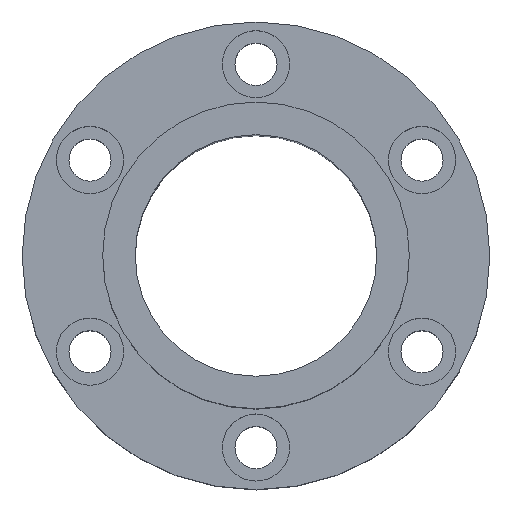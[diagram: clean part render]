
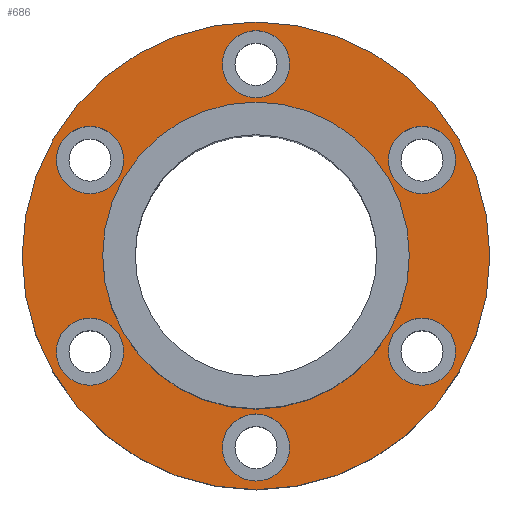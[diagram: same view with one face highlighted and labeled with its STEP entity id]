
A CAD part, top view. The second image highlights one B-rep face of the part: STEP entity #686.
In plain terms, the highlighted planar face has unit normal (0, 0, 1).
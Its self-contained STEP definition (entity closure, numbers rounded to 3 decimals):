
#1=CARTESIAN_POINT('',(0.,0.,22.));
#2=DIRECTION('',(0.,0.,1.));
#3=DIRECTION('',(1.,0.,0.));
#4=AXIS2_PLACEMENT_3D('',#1,#2,#3);
#6=CARTESIAN_POINT('',(0.,0.,22.));
#7=DIRECTION('',(0.,0.,1.));
#8=DIRECTION('',(-1.,0.,0.));
#9=AXIS2_PLACEMENT_3D('',#6,#7,#8);
#11=CARTESIAN_POINT('',(43.301,-25.,22.));
#12=DIRECTION('',(0.,0.,-1.));
#13=DIRECTION('',(-0.5,-0.866,0.));
#14=AXIS2_PLACEMENT_3D('',#11,#12,#13);
#16=CARTESIAN_POINT('',(43.301,-25.,22.));
#17=DIRECTION('',(0.,0.,-1.));
#18=DIRECTION('',(0.5,0.866,0.));
#19=AXIS2_PLACEMENT_3D('',#16,#17,#18);
#21=CARTESIAN_POINT('',(-43.301,-25.,22.));
#22=DIRECTION('',(0.,0.,-1.));
#23=DIRECTION('',(-0.5,0.866,0.));
#24=AXIS2_PLACEMENT_3D('',#21,#22,#23);
#26=CARTESIAN_POINT('',(-43.301,-25.,22.));
#27=DIRECTION('',(0.,0.,-1.));
#28=DIRECTION('',(0.5,-0.866,0.));
#29=AXIS2_PLACEMENT_3D('',#26,#27,#28);
#31=CARTESIAN_POINT('',(0.,50.,22.));
#32=DIRECTION('',(0.,0.,-1.));
#33=DIRECTION('',(1.,0.,0.));
#34=AXIS2_PLACEMENT_3D('',#31,#32,#33);
#36=CARTESIAN_POINT('',(0.,50.,22.));
#37=DIRECTION('',(0.,0.,-1.));
#38=DIRECTION('',(-1.,0.,0.));
#39=AXIS2_PLACEMENT_3D('',#36,#37,#38);
#41=CARTESIAN_POINT('',(0.,0.,22.));
#42=DIRECTION('',(0.,0.,-1.));
#43=DIRECTION('',(1.,0.,0.));
#44=AXIS2_PLACEMENT_3D('',#41,#42,#43);
#46=CARTESIAN_POINT('',(0.,0.,22.));
#47=DIRECTION('',(0.,0.,-1.));
#48=DIRECTION('',(-1.,0.,0.));
#49=AXIS2_PLACEMENT_3D('',#46,#47,#48);
#51=CARTESIAN_POINT('',(-43.301,25.,22.));
#52=DIRECTION('',(0.,0.,-1.));
#53=DIRECTION('',(0.5,0.866,0.));
#54=AXIS2_PLACEMENT_3D('',#51,#52,#53);
#56=CARTESIAN_POINT('',(-43.301,25.,22.));
#57=DIRECTION('',(0.,0.,-1.));
#58=DIRECTION('',(-0.5,-0.866,0.));
#59=AXIS2_PLACEMENT_3D('',#56,#57,#58);
#61=CARTESIAN_POINT('',(0.,-50.,22.));
#62=DIRECTION('',(0.,0.,-1.));
#63=DIRECTION('',(-1.,0.,0.));
#64=AXIS2_PLACEMENT_3D('',#61,#62,#63);
#66=CARTESIAN_POINT('',(0.,-50.,22.));
#67=DIRECTION('',(0.,0.,-1.));
#68=DIRECTION('',(1.,0.,0.));
#69=AXIS2_PLACEMENT_3D('',#66,#67,#68);
#71=CARTESIAN_POINT('',(43.301,25.,22.));
#72=DIRECTION('',(0.,0.,-1.));
#73=DIRECTION('',(0.5,-0.866,0.));
#74=AXIS2_PLACEMENT_3D('',#71,#72,#73);
#76=CARTESIAN_POINT('',(43.301,25.,22.));
#77=DIRECTION('',(0.,0.,-1.));
#78=DIRECTION('',(-0.5,0.866,0.));
#79=AXIS2_PLACEMENT_3D('',#76,#77,#78);
#561=CARTESIAN_POINT('',(-61.,0.,22.));
#563=VERTEX_POINT('',#561);
#565=CARTESIAN_POINT('',(61.,0.,22.));
#567=VERTEX_POINT('',#565);
#569=CARTESIAN_POINT('',(8.75,50.,22.));
#571=VERTEX_POINT('',#569);
#573=CARTESIAN_POINT('',(-8.75,50.,22.));
#575=VERTEX_POINT('',#573);
#577=CARTESIAN_POINT('',(-38.926,32.578,22.));
#579=VERTEX_POINT('',#577);
#581=CARTESIAN_POINT('',(-47.676,17.422,22.));
#583=VERTEX_POINT('',#581);
#585=CARTESIAN_POINT('',(-47.676,-17.422,22.));
#587=VERTEX_POINT('',#585);
#589=CARTESIAN_POINT('',(-38.926,-32.578,22.));
#591=VERTEX_POINT('',#589);
#593=CARTESIAN_POINT('',(-8.75,-50.,22.));
#595=VERTEX_POINT('',#593);
#597=CARTESIAN_POINT('',(8.75,-50.,22.));
#599=VERTEX_POINT('',#597);
#601=CARTESIAN_POINT('',(38.926,-32.578,22.));
#603=VERTEX_POINT('',#601);
#605=CARTESIAN_POINT('',(47.676,-17.422,22.));
#607=VERTEX_POINT('',#605);
#609=CARTESIAN_POINT('',(47.676,17.422,22.));
#611=VERTEX_POINT('',#609);
#613=CARTESIAN_POINT('',(38.926,32.578,22.));
#615=VERTEX_POINT('',#613);
#626=CARTESIAN_POINT('',(40.,0.,22.));
#628=VERTEX_POINT('',#626);
#630=CARTESIAN_POINT('',(-40.,0.,22.));
#632=VERTEX_POINT('',#630);
#633=CARTESIAN_POINT('',(0.,0.,22.));
#634=DIRECTION('',(0.,0.,1.));
#635=DIRECTION('',(1.,0.,0.));
#636=AXIS2_PLACEMENT_3D('',#633,#634,#635);
#637=PLANE('',#636);
#639=ORIENTED_EDGE('',*,*,#638,.F.);
#641=ORIENTED_EDGE('',*,*,#640,.F.);
#642=EDGE_LOOP('',(#639,#641));
#643=FACE_OUTER_BOUND('',#642,.F.);
#645=ORIENTED_EDGE('',*,*,#644,.F.);
#647=ORIENTED_EDGE('',*,*,#646,.F.);
#648=EDGE_LOOP('',(#645,#647));
#649=FACE_BOUND('',#648,.F.);
#651=ORIENTED_EDGE('',*,*,#650,.F.);
#653=ORIENTED_EDGE('',*,*,#652,.F.);
#654=EDGE_LOOP('',(#651,#653));
#655=FACE_BOUND('',#654,.F.);
#657=ORIENTED_EDGE('',*,*,#656,.F.);
#659=ORIENTED_EDGE('',*,*,#658,.F.);
#660=EDGE_LOOP('',(#657,#659));
#661=FACE_BOUND('',#660,.F.);
#663=ORIENTED_EDGE('',*,*,#662,.F.);
#665=ORIENTED_EDGE('',*,*,#664,.F.);
#666=EDGE_LOOP('',(#663,#665));
#667=FACE_BOUND('',#666,.F.);
#669=ORIENTED_EDGE('',*,*,#668,.F.);
#671=ORIENTED_EDGE('',*,*,#670,.F.);
#672=EDGE_LOOP('',(#669,#671));
#673=FACE_BOUND('',#672,.F.);
#675=ORIENTED_EDGE('',*,*,#674,.F.);
#677=ORIENTED_EDGE('',*,*,#676,.F.);
#678=EDGE_LOOP('',(#675,#677));
#679=FACE_BOUND('',#678,.F.);
#681=ORIENTED_EDGE('',*,*,#680,.F.);
#683=ORIENTED_EDGE('',*,*,#682,.F.);
#684=EDGE_LOOP('',(#681,#683));
#685=FACE_BOUND('',#684,.F.);
#686=ADVANCED_FACE('',(#643,#649,#655,#661,#667,#673,#679,#685),#637,.T.);
#5=CIRCLE('',#4,61.);
#10=CIRCLE('',#9,61.);
#15=CIRCLE('',#14,8.75);
#20=CIRCLE('',#19,8.75);
#25=CIRCLE('',#24,8.75);
#30=CIRCLE('',#29,8.75);
#35=CIRCLE('',#34,8.75);
#40=CIRCLE('',#39,8.75);
#45=CIRCLE('',#44,40.);
#50=CIRCLE('',#49,40.);
#55=CIRCLE('',#54,8.75);
#60=CIRCLE('',#59,8.75);
#65=CIRCLE('',#64,8.75);
#70=CIRCLE('',#69,8.75);
#75=CIRCLE('',#74,8.75);
#80=CIRCLE('',#79,8.75);
#638=EDGE_CURVE('',#567,#563,#5,.T.);
#640=EDGE_CURVE('',#563,#567,#10,.T.);
#644=EDGE_CURVE('',#603,#607,#15,.T.);
#646=EDGE_CURVE('',#607,#603,#20,.T.);
#650=EDGE_CURVE('',#587,#591,#25,.T.);
#652=EDGE_CURVE('',#591,#587,#30,.T.);
#656=EDGE_CURVE('',#571,#575,#35,.T.);
#658=EDGE_CURVE('',#575,#571,#40,.T.);
#662=EDGE_CURVE('',#628,#632,#45,.T.);
#664=EDGE_CURVE('',#632,#628,#50,.T.);
#668=EDGE_CURVE('',#579,#583,#55,.T.);
#670=EDGE_CURVE('',#583,#579,#60,.T.);
#674=EDGE_CURVE('',#595,#599,#65,.T.);
#676=EDGE_CURVE('',#599,#595,#70,.T.);
#680=EDGE_CURVE('',#611,#615,#75,.T.);
#682=EDGE_CURVE('',#615,#611,#80,.T.);
